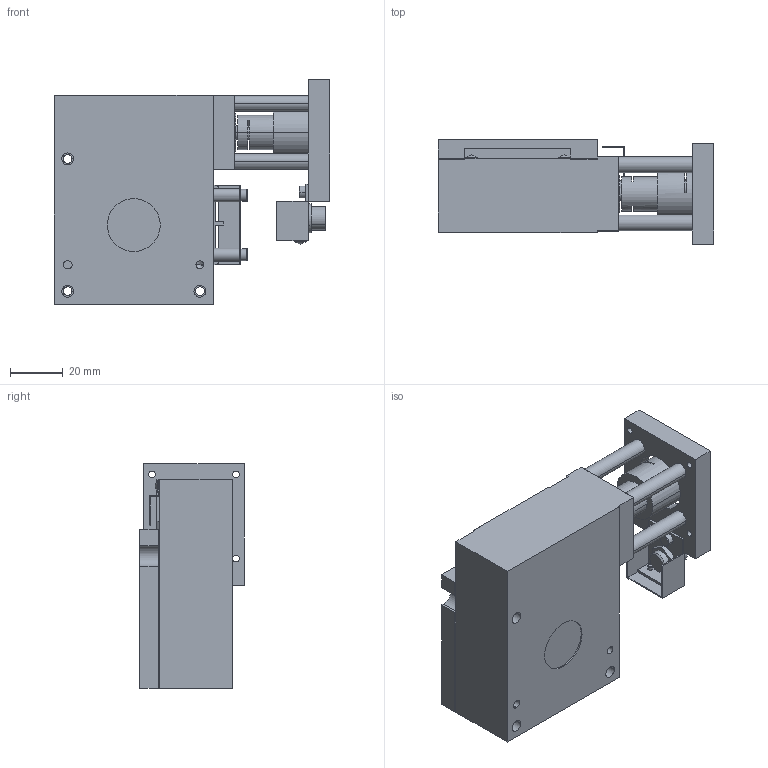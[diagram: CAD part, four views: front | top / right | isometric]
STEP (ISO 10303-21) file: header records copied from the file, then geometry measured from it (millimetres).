
FILE_DESCRIPTION (( 'STEP AP203' ), '1' );
FILE_NAME ('KRB06011MSV-LS38.STEP', '2024-03-25T08:34:39', ( '' ), ( '' ), 'SwSTEP 2.0', 'SolidWorks 2017', '' );
FILE_SCHEMA (( 'CONFIG_CONTROL_DESIGN' ));
Length unit declared in the file: millimetre
Products named in the file (4): KRB-TOP-06-S-L; KRB-06-S38-L; KRB06011MSV-LS38; KRB-BASE-06-SL
Assembly tree (3 placements, depth 2):
  KRB06011MSV-LS38
    KRB-06-S38-L
    KRB-BASE-06-SL
    KRB-TOP-06-S-L
Bounding box: 104 x 39.5 x 85 mm (x, y, z)
Volume: 177471.5 mm3; surface area: 47603.9 mm2
Topology: 4 solids, 14 shells, 350 faces, 867 edges, 562 vertices
Faces by surface type: plane 158, cylinder 154, cone 24, torus 8, bspline 6
Entity records: 10953 total; most frequent: DIRECTION 1919, CARTESIAN_POINT 1861, ORIENTED_EDGE 1706, EDGE_CURVE 853, AXIS2_PLACEMENT_3D 716, VERTEX_POINT 562, VECTOR 487, LINE 487
